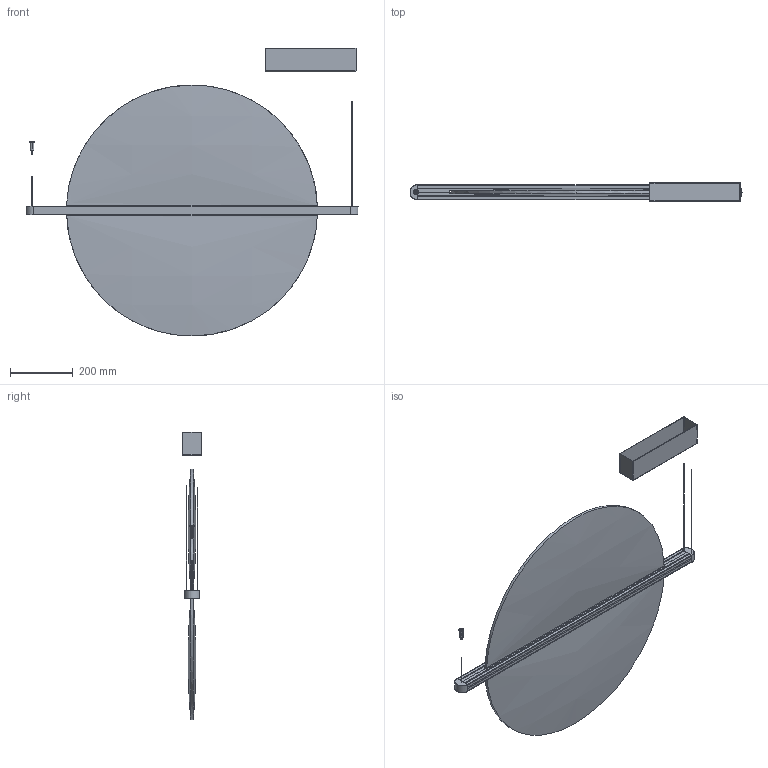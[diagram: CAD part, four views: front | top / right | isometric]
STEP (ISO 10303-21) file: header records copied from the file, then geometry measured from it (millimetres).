
FILE_DESCRIPTION(/* description */ (''),/* implementation_level */ '2;1');
FILE_NAME(/* name */ '198324~1',/* time_stamp */ '2021-06-09T14:13:49+02:00',/* author */ (''),/* organization */ (''),/* preprocessor_version */ 'ST-DEVELOPER v16.5',/* originating_system */ '',/* authorisation */ '');
FILE_SCHEMA (('CONFIG_CONTROL_DESIGN'));
Length unit declared in the file: millimetre
Products named in the file (9): Document; MIN.005185; MIN.005186; MET.005568; PRE.005671; CEL.005307; PRE.005672; CEL.005307_1; PLA.005070
Assembly tree (11 placements, depth 3):
  Document
    MIN.005185
    MIN.005186
    MET.005568
    PRE.005671
      CEL.005307
    PRE.005672
      CEL.005307_1
    PLA.005070  x4
Bounding box: 1058.44 x 60 x 917.96 mm (x, y, z)
Volume: 8115502.1 mm3; surface area: 1708684.7 mm2
Topology: 19 solids, 21 shells, 573 faces, 1618 edges, 1079 vertices
Faces by surface type: plane 296, cylinder 240, bspline 37
Entity records: 19255 total; most frequent: CARTESIAN_POINT 8957, ORIENTED_EDGE 2916, EDGE_CURVE 1474, VERTEX_POINT 983, B_SPLINE_CURVE_WITH_KNOTS 956, DIRECTION 538, EDGE_LOOP 531, ADVANCED_FACE 519
